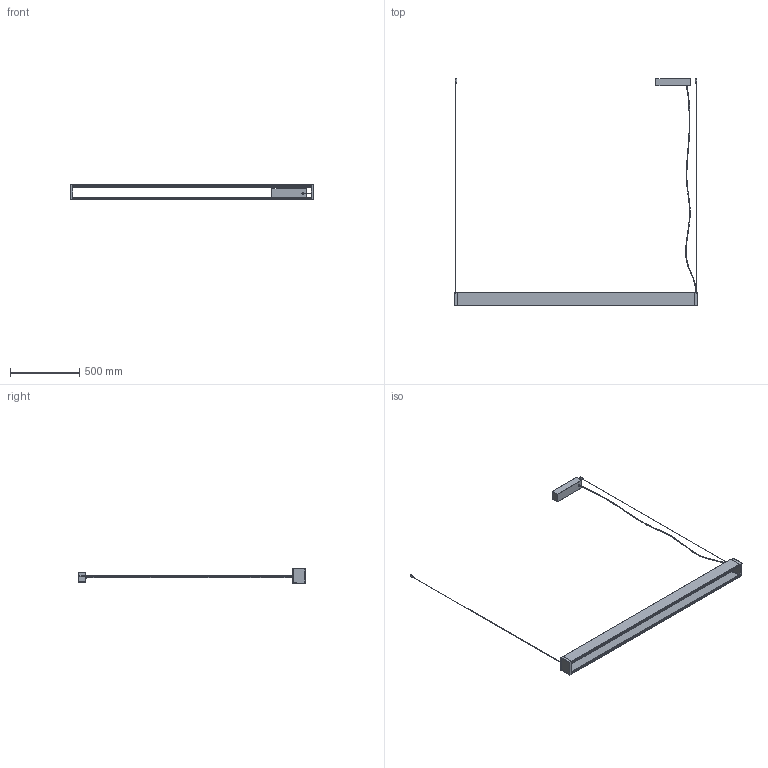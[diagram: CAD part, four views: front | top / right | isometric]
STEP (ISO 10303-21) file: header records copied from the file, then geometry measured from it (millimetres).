
FILE_DESCRIPTION (( 'STEP AP214' ), '1' );
FILE_NAME ('3D_TRU_DOWNDOWN_H_PENDANT.STEP', '2018-04-09T14:57:43', ( 'Utente' ), ( '' ), 'SwSTEP 2.0', 'SolidWorks 2016', '' );
FILE_SCHEMA (( 'AUTOMOTIVE_DESIGN' ));
Length unit declared in the file: millimetre
Products named in the file (7): 3D_TRU_DOWNDOWN_H_PENDANT; CAVO_ELETTRICO_TRU-1^3D_TRU_DOWNDOWN_H_PENDANT; 021FRA000000-1^3D_TRU_DOWNDOWN_H_PENDANT; ROSONE_SEMPLICE-1^3D_TRU_DOWNDOWN_H_PENDANT; Group3^3D_TRU_DOWNDOWN_H_PENDANT; Group2^3D_TRU_DOWNDOWN_H_PENDANT; Group1^3D_TRU_DOWNDOWN_H_PENDANT
Assembly tree (6 placements, depth 2):
  3D_TRU_DOWNDOWN_H_PENDANT
    Group1^3D_TRU_DOWNDOWN_H_PENDANT
    Group2^3D_TRU_DOWNDOWN_H_PENDANT
    Group3^3D_TRU_DOWNDOWN_H_PENDANT
    ROSONE_SEMPLICE-1^3D_TRU_DOWNDOWN_H_PENDANT
    021FRA000000-1^3D_TRU_DOWNDOWN_H_PENDANT
    CAVO_ELETTRICO_TRU-1^3D_TRU_DOWNDOWN_H_PENDANT
Bounding box: 1755.66 x 1633.7 x 112 mm (x, y, z)
Volume: 4826727.2 mm3; surface area: 1026593 mm2
Topology: 8 solids, 8 shells, 357 faces, 970 edges, 641 vertices
Faces by surface type: plane 215, cylinder 92, bspline 28, torus 12, sphere 10
Entity records: 17386 total; most frequent: CARTESIAN_POINT 8251, ORIENTED_EDGE 1924, DIRECTION 1722, EDGE_CURVE 962, VERTEX_POINT 641, VECTOR 634, LINE 634, AXIS2_PLACEMENT_3D 544
